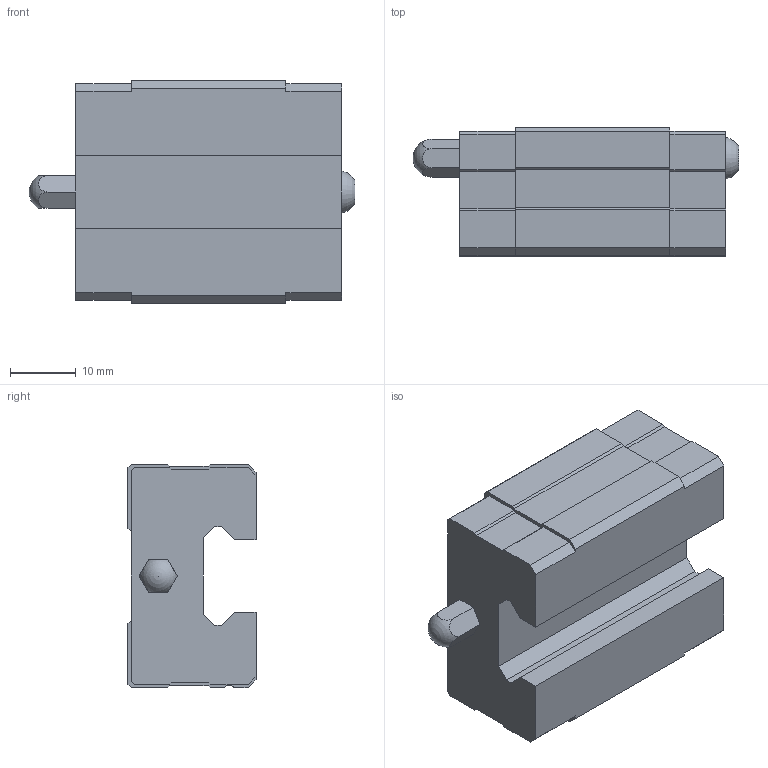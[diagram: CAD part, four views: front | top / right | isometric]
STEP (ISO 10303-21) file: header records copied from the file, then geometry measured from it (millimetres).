
FILE_DESCRIPTION(/* description */ ('STEP AP214'),/* implementation_level */ '2;1');
FILE_NAME(/* name */ 'LSD15BK-HS-N-E-M4',/* time_stamp */ '2025-03-14T18:43:40+01:00',/* author */ ('License CC BY-ND 4.0'),/* organization */ ('CADENAS'),/* preprocessor_version */ 'ST-DEVELOPER v19.3',/* originating_system */ 'PARTsolutions',/* authorisation */ ' ');
FILE_SCHEMA (('AUTOMOTIVE_DESIGN {1 0 10303 214 3 1 1}'));
Length unit declared in the file: millimetre
Products named in the file (1): LSD15BK-HS-N-E-M4
Bounding box: 49.6 x 19.5 x 34 mm (x, y, z)
Volume: 21784.7 mm3; surface area: 6424.1 mm2
Topology: 1 solids, 1 shells, 92 faces, 251 edges, 165 vertices
Faces by surface type: plane 85, cylinder 3, cone 2, sphere 1, torus 1
Full cylindrical faces by diameter (mm): 3.242 x2
Entity records: 2846 total; most frequent: CARTESIAN_POINT 501, ORIENTED_EDGE 488, DIRECTION 446, EDGE_CURVE 244, LINE 228, VECTOR 228, VERTEX_POINT 164, AXIS2_PLACEMENT_3D 109
